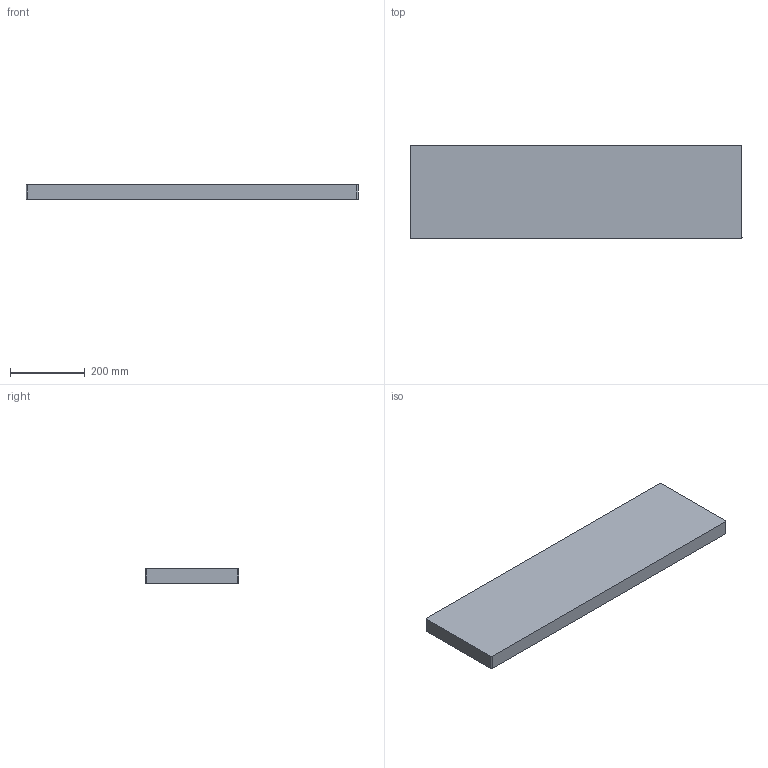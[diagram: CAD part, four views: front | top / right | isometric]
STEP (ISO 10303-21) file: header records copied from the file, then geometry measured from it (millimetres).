
FILE_DESCRIPTION(/* description */ (''),/* implementation_level */ '2;1');
FILE_NAME(/* name */ 'Pos106-Hout D= 40-Hout-15st',/* time_stamp */ '2024-08-06T13:37:43+02:00',/* author */ (''),/* organization */ (''),/* preprocessor_version */ 'ST-DEVELOPER v16.5',/* originating_system */ 'HiCAD 2024 2901.2 Build 361',/* authorisation */ '');
FILE_SCHEMA (('AUTOMOTIVE_DESIGN { 1 0 10303 214 1 1 1 1 }'));
Length unit declared in the file: millimetre
Products named in the file (2): Pos106-Hout D= 40-Hout-15st; Pos0-Antislip-Rubber-0st
Assembly tree (1 placements, depth 2):
  Pos106-Hout D= 40-Hout-15st
    Pos0-Antislip-Rubber-0st
Bounding box: 890 x 250 x 40 mm (x, y, z)
Volume: 8899691 mm3; surface area: 535978.5 mm2
Topology: 1 solids, 1 shells, 10 faces, 24 edges, 16 vertices
Faces by surface type: plane 6, cylinder 4
Entity records: 580 total; most frequent: DIRECTION 56, CARTESIAN_POINT 52, PRESENTATION_STYLE_ASSIGNMENT 49, COLOUR_RGB 49, DRAUGHTING_PRE_DEFINED_CURVE_FONT 48, CURVE_STYLE 48, OVER_RIDING_STYLED_ITEM 48, ORIENTED_EDGE 48
